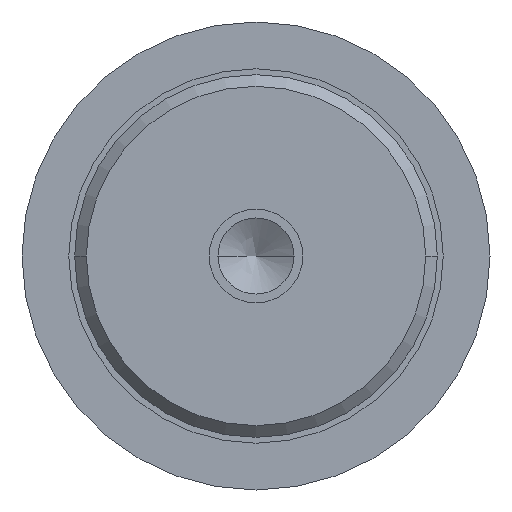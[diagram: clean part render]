
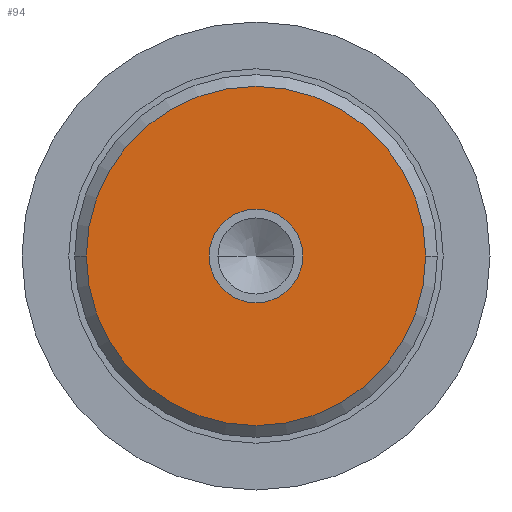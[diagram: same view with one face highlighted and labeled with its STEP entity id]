
A CAD part, left-side view. The second image highlights one B-rep face of the part: STEP entity #94.
In plain terms, the highlighted free-form (B-spline) face has degree [1, 1] with [2, 2] control points.
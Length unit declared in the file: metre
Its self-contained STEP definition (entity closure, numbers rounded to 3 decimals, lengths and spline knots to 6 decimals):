
#94 = ADVANCED_FACE( '', ( #155, #156 ), #157, .F. );
#155 = FACE_BOUND( '', #307, .T. );
#156 = FACE_OUTER_BOUND( '', #308, .T. );
#157 = B_SPLINE_SURFACE_WITH_KNOTS( '', 1, 1, ( ( #309, #310 ), ( #311, #312 ) ), .UNSPECIFIED., .F., .F., .F., ( 2, 2 ), ( 2, 2 ), ( 0., 1. ), ( 0., 1. ), .UNSPECIFIED. );
#307 = EDGE_LOOP( '', ( #503, #504 ) );
#308 = EDGE_LOOP( '', ( #505, #506 ) );
#309 = CARTESIAN_POINT( '', ( 0., -0.014674, -0.014674 ) );
#310 = CARTESIAN_POINT( '', ( 0., -0.014674, 0.014674 ) );
#311 = CARTESIAN_POINT( '', ( 0., 0.014674, -0.014674 ) );
#312 = CARTESIAN_POINT( '', ( 0., 0.014674, 0.014674 ) );
#503 = ORIENTED_EDGE( '', *, *, #686, .F. );
#504 = ORIENTED_EDGE( '', *, *, #684, .F. );
#505 = ORIENTED_EDGE( '', *, *, #689, .F. );
#506 = ORIENTED_EDGE( '', *, *, #690, .F. );
#684 = EDGE_CURVE( '', #778, #780, #781, .T. );
#686 = EDGE_CURVE( '', #780, #778, #783, .T. );
#689 = EDGE_CURVE( '', #787, #788, #789, .T. );
#690 = EDGE_CURVE( '', #788, #787, #790, .T. );
#778 = VERTEX_POINT( '', #910 );
#780 = VERTEX_POINT( '', #913 );
#781 = CIRCLE( '', #914, 0.004 );
#783 = CIRCLE( '', #917, 0.004 );
#787 = VERTEX_POINT( '', #923 );
#788 = VERTEX_POINT( '', #924 );
#789 = CIRCLE( '', #925, 0.0145 );
#790 = CIRCLE( '', #926, 0.0145 );
#910 = CARTESIAN_POINT( '', ( 0., -0.004, 0. ) );
#913 = CARTESIAN_POINT( '', ( 0., 0.004, 0. ) );
#914 = AXIS2_PLACEMENT_3D( '', #1076, #1077, #1078 );
#917 = AXIS2_PLACEMENT_3D( '', #1080, #1081, #1082 );
#923 = CARTESIAN_POINT( '', ( 0., 0.0145, 0. ) );
#924 = CARTESIAN_POINT( '', ( 0., -0.0145, 0. ) );
#925 = AXIS2_PLACEMENT_3D( '', #1085, #1086, #1087 );
#926 = AXIS2_PLACEMENT_3D( '', #1088, #1089, #1090 );
#1076 = CARTESIAN_POINT( '', ( 0., 0., 0. ) );
#1077 = DIRECTION( '', ( -1., 0., 0. ) );
#1078 = DIRECTION( '', ( 0., -1., 0. ) );
#1080 = CARTESIAN_POINT( '', ( 0., 0., 0. ) );
#1081 = DIRECTION( '', ( -1., 0., 0. ) );
#1082 = DIRECTION( '', ( 0., -1., 0. ) );
#1085 = CARTESIAN_POINT( '', ( 0., 0., 0. ) );
#1086 = DIRECTION( '', ( 1., 0., 0. ) );
#1087 = DIRECTION( '', ( 0., 1., 0. ) );
#1088 = CARTESIAN_POINT( '', ( 0., 0., 0. ) );
#1089 = DIRECTION( '', ( 1., 0., 0. ) );
#1090 = DIRECTION( '', ( 0., 1., 0. ) );
